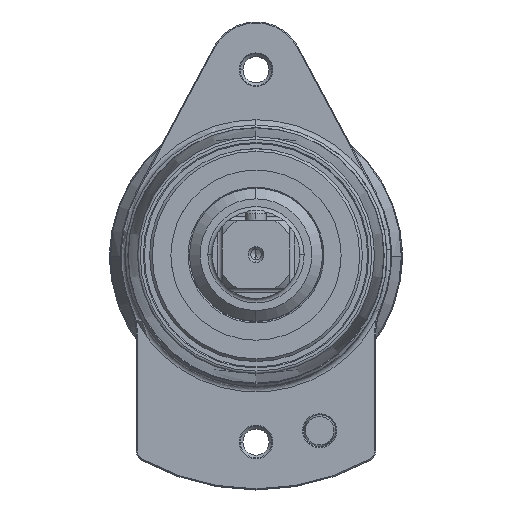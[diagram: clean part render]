
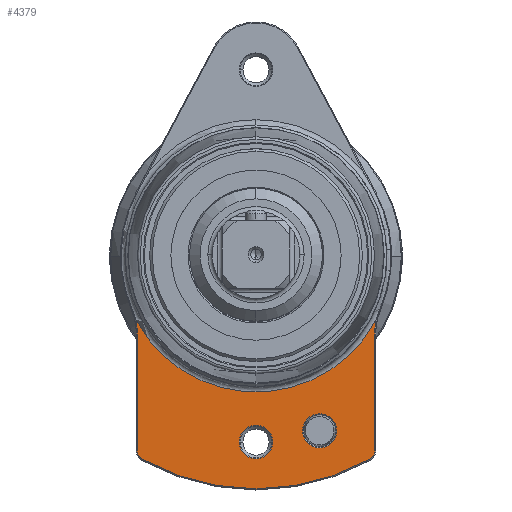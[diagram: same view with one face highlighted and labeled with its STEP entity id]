
A CAD part, top view. The second image highlights one B-rep face of the part: STEP entity #4379.
In plain terms, the highlighted planar face has unit normal (0, 0, 1).
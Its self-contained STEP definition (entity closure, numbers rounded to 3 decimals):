
#334=CARTESIAN_POINT('',(0.,-35.,39.3));
#335=DIRECTION('',(0.,0.,-1.));
#336=DIRECTION('',(-1.,0.,0.));
#337=AXIS2_PLACEMENT_3D('',#334,#335,#336);
#342=CARTESIAN_POINT('',(0.,-35.,39.3));
#343=DIRECTION('',(0.,0.,-1.));
#344=DIRECTION('',(1.,0.,0.));
#345=AXIS2_PLACEMENT_3D('',#342,#343,#344);
#350=CARTESIAN_POINT('',(11.971,-32.889,39.3));
#351=DIRECTION('',(0.,0.,-1.));
#352=DIRECTION('',(-1.,0.,0.));
#353=AXIS2_PLACEMENT_3D('',#350,#351,#352);
#358=CARTESIAN_POINT('',(11.971,-32.889,39.3));
#359=DIRECTION('',(0.,0.,-1.));
#360=DIRECTION('',(1.,0.,0.));
#361=AXIS2_PLACEMENT_3D('',#358,#359,#360);
#366=DIRECTION('',(0.,1.,0.));
#367=VECTOR('',#366,21.96);
#368=CARTESIAN_POINT('',(22.3,-36.657,39.3));
#369=LINE('',#368,#367);
#373=CARTESIAN_POINT('',(20.5,-36.657,39.3));
#374=DIRECTION('',(0.,0.,1.));
#375=DIRECTION('',(0.488,-0.873,0.));
#376=AXIS2_PLACEMENT_3D('',#373,#374,#375);
#381=CARTESIAN_POINT('',(0.,0.,39.3));
#382=DIRECTION('',(0.,0.,1.));
#383=DIRECTION('',(-0.488,-0.873,0.));
#384=AXIS2_PLACEMENT_3D('',#381,#382,#383);
#389=CARTESIAN_POINT('',(-20.5,-36.657,39.3));
#390=DIRECTION('',(0.,0.,1.));
#391=DIRECTION('',(-1.,0.,0.));
#392=AXIS2_PLACEMENT_3D('',#389,#390,#391);
#397=DIRECTION('',(0.,-1.,0.));
#398=VECTOR('',#397,21.96);
#399=CARTESIAN_POINT('',(-22.3,-14.697,39.3));
#400=LINE('',#399,#398);
#404=CARTESIAN_POINT('',(-34.5,-14.697,39.3));
#405=DIRECTION('',(0.,0.,-1.));
#406=DIRECTION('',(0.976,0.218,0.));
#407=AXIS2_PLACEMENT_3D('',#404,#405,#406);
#412=CARTESIAN_POINT('',(34.5,-14.697,39.3));
#413=DIRECTION('',(0.,0.,-1.));
#414=DIRECTION('',(-1.,0.,0.));
#415=AXIS2_PLACEMENT_3D('',#412,#413,#414);
#1054=CARTESIAN_POINT('',(0.,0.,39.3));
#1055=DIRECTION('',(0.,0.,-1.));
#1056=DIRECTION('',(0.883,-0.47,0.));
#1057=AXIS2_PLACEMENT_3D('',#1054,#1055,#1056);
#3693=CARTESIAN_POINT('',(-3.159,-35.,39.3));
#3694=CARTESIAN_POINT('',(3.159,-35.,39.3));
#3695=VERTEX_POINT('',#3693);
#3696=VERTEX_POINT('',#3694);
#3729=CARTESIAN_POINT('',(22.3,-36.657,39.3));
#3730=CARTESIAN_POINT('',(22.3,-14.697,39.3));
#3731=VERTEX_POINT('',#3729);
#3732=VERTEX_POINT('',#3730);
#3733=CARTESIAN_POINT('',(22.593,-12.037,39.3));
#3734=VERTEX_POINT('',#3733);
#3753=CARTESIAN_POINT('',(-22.593,-12.037,39.3));
#3754=CARTESIAN_POINT('',(-22.3,-14.697,39.3));
#3755=VERTEX_POINT('',#3753);
#3756=VERTEX_POINT('',#3754);
#3761=CARTESIAN_POINT('',(-22.3,-36.657,
39.3));
#3762=VERTEX_POINT('',#3761);
#3993=CARTESIAN_POINT('',(21.379,-38.228,39.3));
#3994=VERTEX_POINT('',#3993);
#3997=CARTESIAN_POINT('',(-21.379,-38.228,39.3));
#3998=VERTEX_POINT('',#3997);
#4107=CARTESIAN_POINT('',(8.771,-32.889,39.3));
#4108=CARTESIAN_POINT('',(15.171,-32.889,39.3));
#4109=VERTEX_POINT('',#4107);
#4110=VERTEX_POINT('',#4108);
#4345=CARTESIAN_POINT('',(0.,0.,39.3));
#4346=DIRECTION('',(0.,0.,-1.));
#4347=DIRECTION('',(-1.,0.,0.));
#4348=AXIS2_PLACEMENT_3D('',#4345,#4346,#4347);
#4349=PLANE('',#4348);
#4351=ORIENTED_EDGE('',*,*,#4350,.F.);
#4353=ORIENTED_EDGE('',*,*,#4352,.F.);
#4355=ORIENTED_EDGE('',*,*,#4354,.F.);
#4357=ORIENTED_EDGE('',*,*,#4356,.F.);
#4359=ORIENTED_EDGE('',*,*,#4358,.F.);
#4361=ORIENTED_EDGE('',*,*,#4360,.F.);
#4363=ORIENTED_EDGE('',*,*,#4362,.F.);
#4364=ORIENTED_EDGE('',*,*,#4335,.F.);
#4365=EDGE_LOOP('',(#4351,#4353,#4355,#4357,#4359,#4361,#4363,#4364));
#4366=FACE_OUTER_BOUND('',#4365,.F.);
#4368=ORIENTED_EDGE('',*,*,#4367,.F.);
#4370=ORIENTED_EDGE('',*,*,#4369,.F.);
#4371=EDGE_LOOP('',(#4368,#4370));
#4372=FACE_BOUND('',#4371,.F.);
#4374=ORIENTED_EDGE('',*,*,#4373,.F.);
#4376=ORIENTED_EDGE('',*,*,#4375,.F.);
#4377=EDGE_LOOP('',(#4374,#4376));
#4378=FACE_BOUND('',#4377,.F.);
#338=CIRCLE('',#337,3.159);
#346=CIRCLE('',#345,3.159);
#354=CIRCLE('',#353,3.2);
#362=CIRCLE('',#361,3.2);
#377=CIRCLE('',#376,1.8);
#385=CIRCLE('',#384,43.8);
#393=CIRCLE('',#392,1.8);
#408=CIRCLE('',#407,12.2);
#416=CIRCLE('',#415,12.2);
#1058=CIRCLE('',#1057,25.6);
#4335=EDGE_CURVE('',#3732,#3734,#416,.T.);
#4350=EDGE_CURVE('',#3731,#3732,#369,.T.);
#4352=EDGE_CURVE('',#3994,#3731,#377,.T.);
#4354=EDGE_CURVE('',#3998,#3994,#385,.T.);
#4356=EDGE_CURVE('',#3762,#3998,#393,.T.);
#4358=EDGE_CURVE('',#3756,#3762,#400,.T.);
#4360=EDGE_CURVE('',#3755,#3756,#408,.T.);
#4362=EDGE_CURVE('',#3734,#3755,#1058,.T.);
#4367=EDGE_CURVE('',#3695,#3696,#338,.T.);
#4369=EDGE_CURVE('',#3696,#3695,#346,.T.);
#4373=EDGE_CURVE('',#4109,#4110,#354,.T.);
#4375=EDGE_CURVE('',#4110,#4109,#362,.T.);
#4379=ADVANCED_FACE('',(#4366,#4372,#4378),#4349,.F.);
